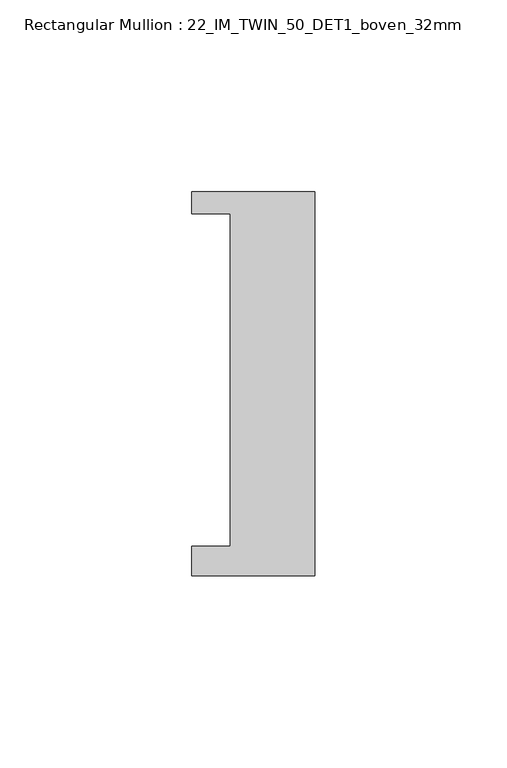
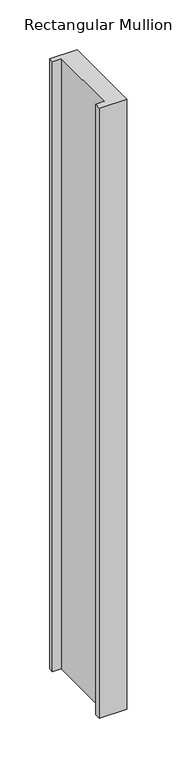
"""IFC4 building model written with IfcOpenShell, lengths in millimetres: member geometry, Rectangular Mullion : 22_IM_TWIN_50_DET1_boven_32mm."""

from ifc_helpers import new_model, si_unit, frame, origin, place, context, project, spatial, polyline, outline, extrude, source, transform, mapped, element, save


def rectangular_mullion_22_im_twin_50_det1_boven_32mm_f8496065(model_context):
    return source(origin(), model_context, "Body", "SweptSolid", [
        extrude(outline(polyline([(-32.0, 50.0), (0.0, 50.0), (0.0, -50.0), (-32.0, -50.0), (-32.0, -42.3), (-22.0, -42.3), (-22.0, 44.3), (-32.0, 44.3), (-32.0, 50.0)])), frame((0.0, 0.0, -750.0), z_axis=(0.0, 0.0, 1.0), x_axis=(1.0, 0.0, 0.0)), (0.0, 0.0, 1.0), 750.0),
    ])


if __name__ == "__main__":
    model = new_model("IFC4")
    model_context = context("Model", 3, world=origin())
    ifc_project = project(units=[si_unit("LENGTHUNIT", "METRE", prefix="MILLI")], contexts=[model_context])
    site = spatial("IfcSite", under=ifc_project)
    building = spatial("IfcBuilding", under=site)
    placement = place(None, origin())
    rectangular_mullion_22_im_twin_50_det1_boven_32mm_shape = rectangular_mullion_22_im_twin_50_det1_boven_32mm_f8496065(model_context)
    element("IfcMember", 1, ObjectType="Rectangular Mullion : 22_IM_TWIN_50_DET1_boven_32mm", at=placement, inside=building, context=model_context, shape_type="MappedRepresentation", body=[
        mapped(rectangular_mullion_22_im_twin_50_det1_boven_32mm_shape, transform((0.0, 0.0, 0.0), x_axis=(1.0, 0.0, 0.0), y_axis=(0.0, 1.0, 0.0), z_axis=(0.0, 0.0, 1.0))),
    ])
    save(model, "model.ifc")
